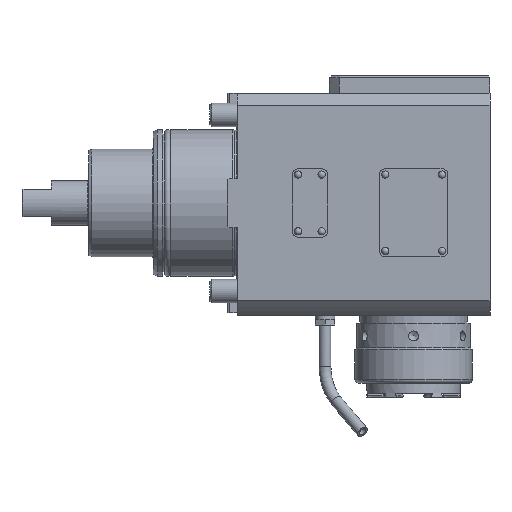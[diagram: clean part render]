
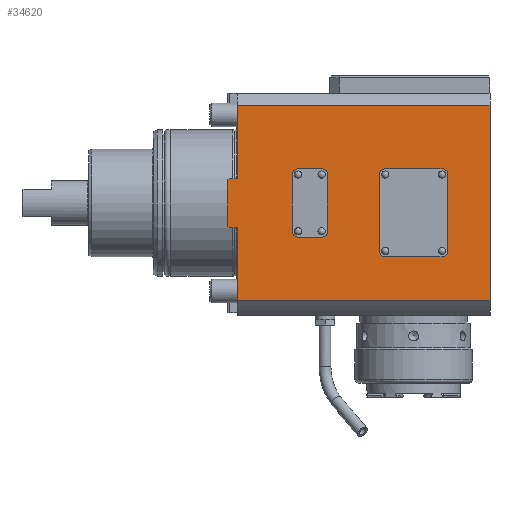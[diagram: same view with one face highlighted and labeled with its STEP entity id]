
A CAD part, front view. The second image highlights one B-rep face of the part: STEP entity #34620.
In plain terms, the highlighted planar face has unit normal (0, -1, 0).
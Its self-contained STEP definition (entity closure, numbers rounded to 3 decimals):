
#13259=VECTOR('',#21015,1.);
#13269=VECTOR('',#21033,1.);
#13277=VECTOR('',#21057,1.);
#13278=VECTOR('',#21058,1.);
#13279=VECTOR('',#21059,1.);
#13280=VECTOR('',#21060,1.);
#13281=VECTOR('',#21061,1.);
#13282=VECTOR('',#21062,1.);
#13283=VECTOR('',#21063,1.);
#13284=VECTOR('',#21064,1.);
#13285=VECTOR('',#21065,1.);
#13286=VECTOR('',#21068,1.);
#13287=VECTOR('',#21071,1.);
#13288=VECTOR('',#21074,1.);
#13289=VECTOR('',#21077,1.);
#13290=VECTOR('',#21080,1.);
#13291=VECTOR('',#21083,1.);
#13292=VECTOR('',#21086,1.);
#13825=LINE('',#23647,#13259);
#13835=LINE('',#23673,#13269);
#13843=LINE('',#23703,#13277);
#13844=LINE('',#23705,#13278);
#13845=LINE('',#23706,#13279);
#13846=LINE('',#23708,#13280);
#13847=LINE('',#23710,#13281);
#13848=LINE('',#23712,#13282);
#13849=LINE('',#23714,#13283);
#13850=LINE('',#23715,#13284);
#13851=LINE('',#23718,#13285);
#13852=LINE('',#23722,#13286);
#13853=LINE('',#23726,#13287);
#13854=LINE('',#23730,#13288);
#13855=LINE('',#23734,#13289);
#13856=LINE('',#23738,#13290);
#13857=LINE('',#23742,#13291);
#13858=LINE('',#23746,#13292);
#14368=PLANE('',#33453);
#14770=ORIENTED_EDGE('',*,*,#18171,.T.);
#14771=ORIENTED_EDGE('',*,*,#18186,.T.);
#14772=ORIENTED_EDGE('',*,*,#18187,.T.);
#14773=ORIENTED_EDGE('',*,*,#18188,.T.);
#14774=ORIENTED_EDGE('',*,*,#18157,.T.);
#14775=ORIENTED_EDGE('',*,*,#18189,.T.);
#14776=ORIENTED_EDGE('',*,*,#18190,.T.);
#14777=ORIENTED_EDGE('',*,*,#18191,.T.);
#14778=ORIENTED_EDGE('',*,*,#18192,.T.);
#14779=ORIENTED_EDGE('',*,*,#18193,.T.);
#14780=ORIENTED_EDGE('',*,*,#18194,.T.);
#14781=ORIENTED_EDGE('',*,*,#18195,.T.);
#14782=ORIENTED_EDGE('',*,*,#18196,.T.);
#14783=ORIENTED_EDGE('',*,*,#18197,.T.);
#14784=ORIENTED_EDGE('',*,*,#18198,.T.);
#14785=ORIENTED_EDGE('',*,*,#18199,.T.);
#14786=ORIENTED_EDGE('',*,*,#18200,.T.);
#14787=ORIENTED_EDGE('',*,*,#18201,.T.);
#14788=ORIENTED_EDGE('',*,*,#18202,.T.);
#14789=ORIENTED_EDGE('',*,*,#18203,.T.);
#14790=ORIENTED_EDGE('',*,*,#18204,.T.);
#14791=ORIENTED_EDGE('',*,*,#18205,.T.);
#14792=ORIENTED_EDGE('',*,*,#18206,.T.);
#14793=ORIENTED_EDGE('',*,*,#18207,.T.);
#14794=ORIENTED_EDGE('',*,*,#18208,.T.);
#14795=ORIENTED_EDGE('',*,*,#18209,.T.);
#16909=CIRCLE('',#33454,3.);
#16910=CIRCLE('',#33455,3.);
#16911=CIRCLE('',#33456,3.);
#16912=CIRCLE('',#33457,3.);
#16913=CIRCLE('',#33458,3.);
#16914=CIRCLE('',#33459,3.);
#16915=CIRCLE('',#33460,3.);
#16916=CIRCLE('',#33461,3.);
#17340=VERTEX_POINT('',#23645);
#17341=VERTEX_POINT('',#23646);
#17352=VERTEX_POINT('',#23670);
#17353=VERTEX_POINT('',#23672);
#17367=VERTEX_POINT('',#23702);
#17368=VERTEX_POINT('',#23704);
#17369=VERTEX_POINT('',#23707);
#17370=VERTEX_POINT('',#23709);
#17371=VERTEX_POINT('',#23711);
#17372=VERTEX_POINT('',#23713);
#17373=VERTEX_POINT('',#23716);
#17374=VERTEX_POINT('',#23717);
#17375=VERTEX_POINT('',#23719);
#17376=VERTEX_POINT('',#23721);
#17377=VERTEX_POINT('',#23723);
#17378=VERTEX_POINT('',#23725);
#17379=VERTEX_POINT('',#23727);
#17380=VERTEX_POINT('',#23729);
#17381=VERTEX_POINT('',#23732);
#17382=VERTEX_POINT('',#23733);
#17383=VERTEX_POINT('',#23735);
#17384=VERTEX_POINT('',#23737);
#17385=VERTEX_POINT('',#23739);
#17386=VERTEX_POINT('',#23741);
#17387=VERTEX_POINT('',#23743);
#17388=VERTEX_POINT('',#23745);
#18157=EDGE_CURVE('',#17340,#17341,#13825,.T.);
#18171=EDGE_CURVE('',#17353,#17352,#13835,.T.);
#18186=EDGE_CURVE('',#17352,#17367,#13843,.T.);
#18187=EDGE_CURVE('',#17367,#17368,#13844,.T.);
#18188=EDGE_CURVE('',#17368,#17340,#13845,.T.);
#18189=EDGE_CURVE('',#17341,#17369,#13846,.T.);
#18190=EDGE_CURVE('',#17369,#17370,#13847,.T.);
#18191=EDGE_CURVE('',#17370,#17371,#13848,.T.);
#18192=EDGE_CURVE('',#17371,#17372,#13849,.T.);
#18193=EDGE_CURVE('',#17372,#17353,#13850,.T.);
#18194=EDGE_CURVE('',#17373,#17374,#13851,.T.);
#18195=EDGE_CURVE('',#17374,#17375,#16909,.T.);
#18196=EDGE_CURVE('',#17375,#17376,#13852,.T.);
#18197=EDGE_CURVE('',#17376,#17377,#16910,.T.);
#18198=EDGE_CURVE('',#17377,#17378,#13853,.T.);
#18199=EDGE_CURVE('',#17378,#17379,#16911,.T.);
#18200=EDGE_CURVE('',#17379,#17380,#13854,.T.);
#18201=EDGE_CURVE('',#17380,#17373,#16912,.T.);
#18202=EDGE_CURVE('',#17381,#17382,#13855,.T.);
#18203=EDGE_CURVE('',#17382,#17383,#16913,.T.);
#18204=EDGE_CURVE('',#17383,#17384,#13856,.T.);
#18205=EDGE_CURVE('',#17384,#17385,#16914,.T.);
#18206=EDGE_CURVE('',#17385,#17386,#13857,.T.);
#18207=EDGE_CURVE('',#17386,#17387,#16915,.T.);
#18208=EDGE_CURVE('',#17387,#17388,#13858,.T.);
#18209=EDGE_CURVE('',#17388,#17381,#16916,.T.);
#19240=EDGE_LOOP('',(#14770,#14771,#14772,#14773,#14774,#14775,#14776,#14777,
#14778,#14779));
#19241=EDGE_LOOP('',(#14780,#14781,#14782,#14783,#14784,#14785,#14786,#14787));
#19242=EDGE_LOOP('',(#14788,#14789,#14790,#14791,#14792,#14793,#14794,#14795));
#20104=FACE_BOUND('',#19240,.T.);
#20105=FACE_BOUND('',#19241,.T.);
#20106=FACE_BOUND('',#19242,.T.);
#21015=DIRECTION('',(0.,0.,-37.39));
#21033=DIRECTION('',(0.,0.,-37.39));
#21055=DIRECTION('',(0.,-1.,0.));
#21056=DIRECTION('',(-1.,0.,0.));
#21057=DIRECTION('',(129.,0.,0.));
#21058=DIRECTION('',(0.,0.,99.78));
#21059=DIRECTION('',(-129.,0.,0.));
#21060=DIRECTION('',(-4.,0.,0.));
#21061=DIRECTION('',(-1.,0.,-0.577));
#21062=DIRECTION('',(0.,0.,-23.845));
#21063=DIRECTION('',(1.,0.,-0.577));
#21064=DIRECTION('',(4.,0.,0.));
#21065=DIRECTION('',(0.,0.,-39.));
#21066=DIRECTION('',(0.,1.,0.));
#21067=DIRECTION('',(3.,0.,0.));
#21068=DIRECTION('',(-29.,0.,0.));
#21069=DIRECTION('',(0.,1.,0.));
#21070=DIRECTION('',(0.,0.,-3.));
#21071=DIRECTION('',(0.,0.,39.));
#21072=DIRECTION('',(0.,1.,0.));
#21073=DIRECTION('',(-3.,0.,0.));
#21074=DIRECTION('',(29.,0.,0.));
#21075=DIRECTION('',(0.,1.,0.));
#21076=DIRECTION('',(0.,0.,3.));
#21077=DIRECTION('',(0.,0.,29.));
#21078=DIRECTION('',(0.,1.,0.));
#21079=DIRECTION('',(-3.,0.,0.));
#21080=DIRECTION('',(12.,0.,0.));
#21081=DIRECTION('',(0.,1.,0.));
#21082=DIRECTION('',(0.,0.,3.));
#21083=DIRECTION('',(0.,0.,-29.));
#21084=DIRECTION('',(0.,1.,0.));
#21085=DIRECTION('',(3.,0.,0.));
#21086=DIRECTION('',(-12.,0.,0.));
#21087=DIRECTION('',(0.,1.,0.));
#21088=DIRECTION('',(0.,0.,-3.));
#23645=CARTESIAN_POINT('',(0.,-56.,49.89));
#23646=CARTESIAN_POINT('',(0.,-56.,12.5));
#23647=CARTESIAN_POINT('',(0.,-56.,49.89));
#23670=CARTESIAN_POINT('',(0.,-56.,-49.89));
#23672=CARTESIAN_POINT('',(0.,-56.,-12.5));
#23673=CARTESIAN_POINT('',(0.,-56.,-12.5));
#23701=CARTESIAN_POINT('',(0.,-56.,49.89));
#23702=CARTESIAN_POINT('',(129.,-56.,-49.89));
#23703=CARTESIAN_POINT('',(0.,-56.,-49.89));
#23704=CARTESIAN_POINT('',(129.,-56.,49.89));
#23705=CARTESIAN_POINT('',(129.,-56.,-49.89));
#23706=CARTESIAN_POINT('',(129.,-56.,49.89));
#23707=CARTESIAN_POINT('',(-4.,-56.,12.5));
#23708=CARTESIAN_POINT('',(0.,-56.,12.5));
#23709=CARTESIAN_POINT('',(-5.,-56.,11.923));
#23710=CARTESIAN_POINT('',(-4.,-56.,12.5));
#23711=CARTESIAN_POINT('',(-5.,-56.,-11.923));
#23712=CARTESIAN_POINT('',(-5.,-56.,11.923));
#23713=CARTESIAN_POINT('',(-4.,-56.,-12.5));
#23714=CARTESIAN_POINT('',(-5.,-56.,-11.923));
#23715=CARTESIAN_POINT('',(-4.,-56.,-12.5));
#23716=CARTESIAN_POINT('',(107.5,-56.,14.5));
#23717=CARTESIAN_POINT('',(107.5,-56.,-24.5));
#23718=CARTESIAN_POINT('',(107.5,-56.,14.5));
#23719=CARTESIAN_POINT('',(104.5,-56.,-27.5));
#23720=CARTESIAN_POINT('',(104.5,-56.,-24.5));
#23721=CARTESIAN_POINT('',(75.5,-56.,-27.5));
#23722=CARTESIAN_POINT('',(104.5,-56.,-27.5));
#23723=CARTESIAN_POINT('',(72.5,-56.,-24.5));
#23724=CARTESIAN_POINT('',(75.5,-56.,-24.5));
#23725=CARTESIAN_POINT('',(72.5,-56.,14.5));
#23726=CARTESIAN_POINT('',(72.5,-56.,-24.5));
#23727=CARTESIAN_POINT('',(75.5,-56.,17.5));
#23728=CARTESIAN_POINT('',(75.5,-56.,14.5));
#23729=CARTESIAN_POINT('',(104.5,-56.,17.5));
#23730=CARTESIAN_POINT('',(75.5,-56.,17.5));
#23731=CARTESIAN_POINT('',(104.5,-56.,14.5));
#23732=CARTESIAN_POINT('',(28.,-56.,-14.5));
#23733=CARTESIAN_POINT('',(28.,-56.,14.5));
#23734=CARTESIAN_POINT('',(28.,-56.,-14.5));
#23735=CARTESIAN_POINT('',(31.,-56.,17.5));
#23736=CARTESIAN_POINT('',(31.,-56.,14.5));
#23737=CARTESIAN_POINT('',(43.,-56.,17.5));
#23738=CARTESIAN_POINT('',(31.,-56.,17.5));
#23739=CARTESIAN_POINT('',(46.,-56.,14.5));
#23740=CARTESIAN_POINT('',(43.,-56.,14.5));
#23741=CARTESIAN_POINT('',(46.,-56.,-14.5));
#23742=CARTESIAN_POINT('',(46.,-56.,14.5));
#23743=CARTESIAN_POINT('',(43.,-56.,-17.5));
#23744=CARTESIAN_POINT('',(43.,-56.,-14.5));
#23745=CARTESIAN_POINT('',(31.,-56.,-17.5));
#23746=CARTESIAN_POINT('',(43.,-56.,-17.5));
#23747=CARTESIAN_POINT('',(31.,-56.,-14.5));
#33453=AXIS2_PLACEMENT_3D('',#23701,#21055,#21056);
#33454=AXIS2_PLACEMENT_3D('',#23720,#21066,#21067);
#33455=AXIS2_PLACEMENT_3D('',#23724,#21069,#21070);
#33456=AXIS2_PLACEMENT_3D('',#23728,#21072,#21073);
#33457=AXIS2_PLACEMENT_3D('',#23731,#21075,#21076);
#33458=AXIS2_PLACEMENT_3D('',#23736,#21078,#21079);
#33459=AXIS2_PLACEMENT_3D('',#23740,#21081,#21082);
#33460=AXIS2_PLACEMENT_3D('',#23744,#21084,#21085);
#33461=AXIS2_PLACEMENT_3D('',#23747,#21087,#21088);
#34620=ADVANCED_FACE('',(#20104,#20105,#20106),#14368,.T.);
